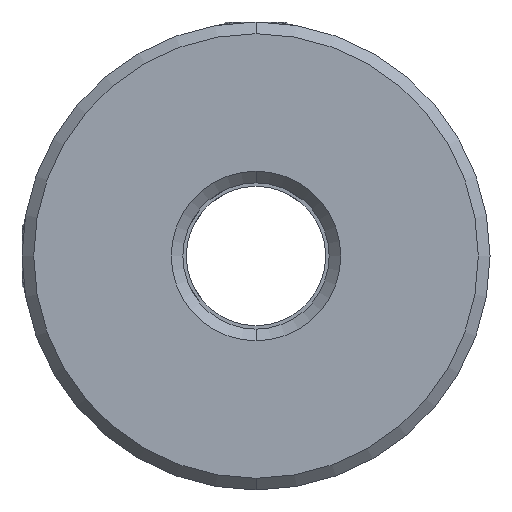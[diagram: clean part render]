
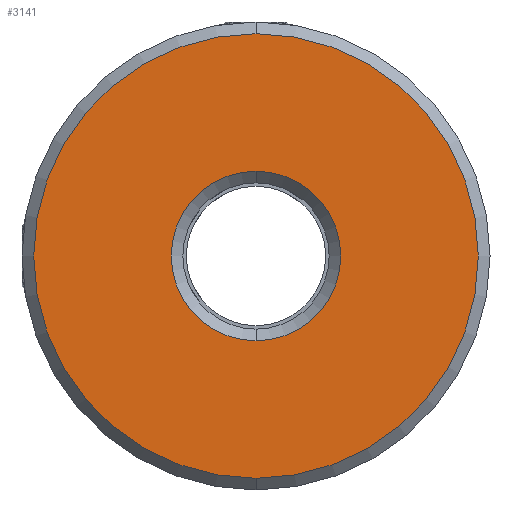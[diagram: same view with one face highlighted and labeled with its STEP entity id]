
A CAD part, front view. The second image highlights one B-rep face of the part: STEP entity #3141.
In plain terms, the highlighted planar face has unit normal (0, -1, 0).
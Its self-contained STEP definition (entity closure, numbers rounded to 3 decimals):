
#86 = DIRECTION ( 'NONE',  ( 0., 1., 0. ) ) ;
#182 = ORIENTED_EDGE ( 'NONE', *, *, #3572, .T. ) ;
#185 = PLANE ( 'NONE',  #3259 ) ;
#335 = CIRCLE ( 'NONE', #1234, 15.2 ) ;
#336 = CIRCLE ( 'NONE', #2645, 5.8 ) ;
#355 = CARTESIAN_POINT ( 'NONE',  ( -10.188, -0.277, 15.246 ) ) ;
#523 = CARTESIAN_POINT ( 'NONE',  ( -10.188, -0.277, -15.154 ) ) ;
#630 = AXIS2_PLACEMENT_3D ( 'NONE', #1828, #2132, #671 ) ;
#671 = DIRECTION ( 'NONE',  ( 0., 0., 1. ) ) ;
#809 = DIRECTION ( 'NONE',  ( 0., 0., 1. ) ) ;
#882 = CIRCLE ( 'NONE', #2079, 5.8 ) ;
#941 = DIRECTION ( 'NONE',  ( 0., 0., 1. ) ) ;
#1047 = FACE_OUTER_BOUND ( 'NONE', #2031, .T. ) ;
#1234 = AXIS2_PLACEMENT_3D ( 'NONE', #1376, #2551, #809 ) ;
#1318 = DIRECTION ( 'NONE',  ( 0., 1., 0. ) ) ;
#1376 = CARTESIAN_POINT ( 'NONE',  ( -10.188, -0.277, 0.046 ) ) ;
#1380 = FACE_BOUND ( 'NONE', #2173, .T. ) ;
#1540 = VERTEX_POINT ( 'NONE', #355 ) ;
#1631 = ORIENTED_EDGE ( 'NONE', *, *, #3009, .T. ) ;
#1828 = CARTESIAN_POINT ( 'NONE',  ( -10.188, -0.277, 0.046 ) ) ;
#1845 = ORIENTED_EDGE ( 'NONE', *, *, #2215, .T. ) ;
#1946 = EDGE_CURVE ( 'NONE', #3532, #1540, #2461, .T. ) ;
#2031 = EDGE_LOOP ( 'NONE', ( #182, #3335 ) ) ;
#2079 = AXIS2_PLACEMENT_3D ( 'NONE', #2214, #1318, #3383 ) ;
#2132 = DIRECTION ( 'NONE',  ( 0., -1., 0. ) ) ;
#2173 = EDGE_LOOP ( 'NONE', ( #1845, #1631 ) ) ;
#2214 = CARTESIAN_POINT ( 'NONE',  ( -10.188, -0.277, 0.046 ) ) ;
#2215 = EDGE_CURVE ( 'NONE', #2528, #2987, #336, .T. ) ;
#2461 = CIRCLE ( 'NONE', #630, 15.2 ) ;
#2520 = DIRECTION ( 'NONE',  ( 0., 0., 1. ) ) ;
#2528 = VERTEX_POINT ( 'NONE', #3101 ) ;
#2551 = DIRECTION ( 'NONE',  ( 0., -1., 0. ) ) ;
#2645 = AXIS2_PLACEMENT_3D ( 'NONE', #3641, #86, #941 ) ;
#2987 = VERTEX_POINT ( 'NONE', #3397 ) ;
#3009 = EDGE_CURVE ( 'NONE', #2987, #2528, #882, .T. ) ;
#3101 = CARTESIAN_POINT ( 'NONE',  ( -10.188, -0.277, -5.754 ) ) ;
#3108 = DIRECTION ( 'NONE',  ( 0., 1., 0. ) ) ;
#3141 = ADVANCED_FACE ( 'NONE', ( #1047, #1380 ), #185, .F. ) ;
#3146 = CARTESIAN_POINT ( 'NONE',  ( -10.188, -0.277, 0.046 ) ) ;
#3259 = AXIS2_PLACEMENT_3D ( 'NONE', #3146, #3108, #2520 ) ;
#3335 = ORIENTED_EDGE ( 'NONE', *, *, #1946, .T. ) ;
#3383 = DIRECTION ( 'NONE',  ( 0., 0., 1. ) ) ;
#3397 = CARTESIAN_POINT ( 'NONE',  ( -10.188, -0.277, 5.846 ) ) ;
#3532 = VERTEX_POINT ( 'NONE', #523 ) ;
#3572 = EDGE_CURVE ( 'NONE', #1540, #3532, #335, .T. ) ;
#3641 = CARTESIAN_POINT ( 'NONE',  ( -10.188, -0.277, 0.046 ) ) ;
